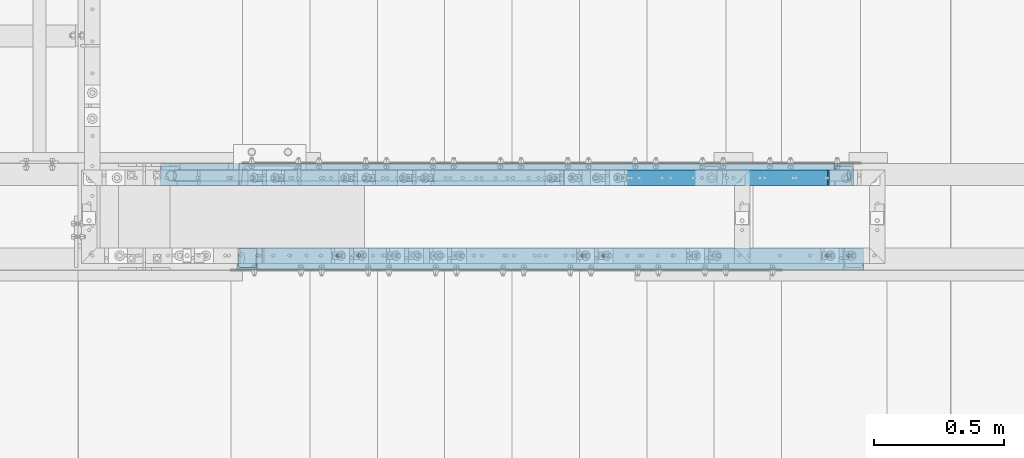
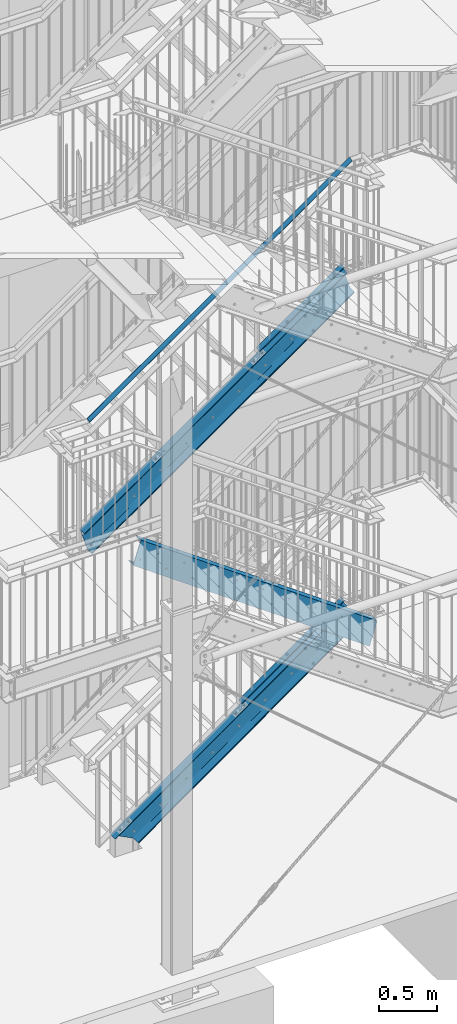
# One storey, part 125 of 831: 6 members, 65 openings.
"""IFC2X3 building model written with IfcOpenShell, lengths in millimetres."""

from ifc_helpers import new_model, entity, si_unit, converted_unit, frame, frame_2d, origin, origin_with_axes, origin_2d, origin_2d_with_axis, place, context, project, spatial, rectangle, circle, hollow_circle, u_section, extrude, clip, halfspace, material, element, save


model = new_model("IFC2X3")

# Units and contexts
model_context = context("Model", 3, precision=1e-09, world=origin_with_axes())
ifc_project = project(units=[si_unit("LENGTHUNIT", "METRE", prefix="MILLI"), si_unit("AREAUNIT", "SQUARE_METRE"), si_unit("VOLUMEUNIT", "CUBIC_METRE"), converted_unit("PLANEANGLEUNIT", "DEGREE", entity("IfcPlaneAngleMeasure", 0.01745329), si_unit("PLANEANGLEUNIT", "RADIAN"), dimensions=[0, 0, 0, 0, 0, 0, 0])], contexts=[model_context])

# Site, building, storey
site_placement = place(None, origin_with_axes())
site = spatial("IfcSite", under=ifc_project, at=site_placement, Name="Site", CompositionType="ELEMENT")
building_placement = place(site_placement, origin_with_axes())
building = spatial("IfcBuilding", under=site, at=building_placement, Name="Struktur 1", CompositionType="ELEMENT")
storey_placement = place(building_placement, origin_with_axes())
storey = spatial("IfcBuildingStorey", under=building, at=storey_placement, Name="Default Storey", CompositionType="ELEMENT", Elevation=0.0)

# Members
ifc_material = material(Name="S235JR")
member_1_placement = place(None, frame((6479.613983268, 6091.736971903, 1519.770361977), z_axis=(-0.814635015, 0.0, -0.579973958), x_axis=(0.579973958, 0.0, -0.814635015)))
element("IfcMember", 1, at=member_1_placement, inside=storey, material=ifc_material, Name="Railing_Kneerail_Stair#2", ObjectType="Railing_Kneerail_Stair#2", context=model_context, shape_type="SweptSolid", body=[
    extrude(rectangle(XDim=10.0, YDim=60.0, at=origin_2d()), origin(), (0.0, 0.0, -1.0), 1250.668990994),
])
member_2_placement = place(None, frame((4950.988825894, 6100.536971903, 4968.914684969), z_axis=(-0.818063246, 0.0, -0.575128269), x_axis=(0.575128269, 0.0, -0.818063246)))
element("IfcMember", 2, at=member_2_placement, inside=storey, material=ifc_material, Name="Gel?nder", ObjectType="Gel?nder", context=model_context, shape_type="Clipping", body=[
    clip(clip(extrude(hollow_circle(Radius=21.2, WallThickness=3.2, at=origin_2d()), origin(), (0.0, 0.0, -1.0), 3241.129789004), halfspace(frame((4016.163485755, 6100.536971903, -1939.205143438), z_axis=(-0.301609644, 0.0, 0.953431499), x_axis=(0.0, 1.0, 0.0)), True)), halfspace(frame((3102.216720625, 6100.536971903, 949.912137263), z_axis=(0.301609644, 0.0, -0.953431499), x_axis=(0.0, -1.0, 0.0)), True)),
])
member_3_placement = place(None, frame((6655.422711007, 6091.736971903, 5146.649770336), z_axis=(-0.818063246, 0.0, -0.575128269), x_axis=(0.575128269, 0.0, -0.818063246)))
element("IfcMember", 3, at=member_3_placement, inside=storey, material=ifc_material, Name="Railing_Kneerail_Stair#4", ObjectType="Railing_Kneerail_Stair#4", context=model_context, shape_type="SweptSolid", body=[
    extrude(rectangle(XDim=10.0, YDim=60.0, at=origin_2d()), origin(), (0.0, 0.0, -1.0), 1029.91856601),
])

# Member, openings
member_4_placement = place(None, frame((4776.641171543, 6124.436971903, 3599.654006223), z_axis=(-0.818063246, 0.0, -0.575128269), x_axis=(0.0, -1.0, 0.0)))
member_4 = element("IfcMember", 4, at=member_4_placement, inside=storey, material=ifc_material, Name="Stringer#2", ObjectType="Stringer#2", context=model_context, shape_type="Clipping", body=[
    clip(clip(extrude(u_section(Depth=240.0, FlangeWidth=85.0, WebThickness=9.5, FlangeThickness=13.0, FilletRadius=13.0, EdgeRadius=6.5, FlangeSlope=4.574, at=frame_2d((20.2, 0.0))), origin(), (0.0, 0.0, -1.0), 3697.004056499), halfspace(frame((6124.436971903, -2876.228700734, -2489.789648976), z_axis=(0.0, 0.301609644, 0.953431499), x_axis=(1.0, 0.0, 0.0)), True)), halfspace(frame((6124.436971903, -1962.281935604, 399.327631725), z_axis=(0.0, -0.301609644, -0.953431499), x_axis=(-1.0, 0.0, 0.0)), True)),
])
opening_1_placement = place(member_4_placement, frame((-22.8, 54.877031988, -2232.875726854), z_axis=(1.0, 0.0, 0.0), x_axis=(0.0, -0.575128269, -0.818063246)))
element("IfcOpeningElement", 5, at=opening_1_placement, cuts=member_4, ObjectType="Opening", context=model_context, shape_type="SweptSolid", body=[
    extrude(circle(Radius=7.001, at=origin_2d_with_axis()), origin(), (0.0, 0.0, 1.0), 10.5),
])
opening_2_placement = place(member_4_placement, frame((-22.8, -48.646056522, -2380.127111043), z_axis=(1.0, 0.0, 0.0), x_axis=(0.0, -0.575128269, -0.818063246)))
element("IfcOpeningElement", 6, at=opening_2_placement, cuts=member_4, ObjectType="Opening", context=model_context, shape_type="SweptSolid", body=[
    extrude(circle(Radius=7.001, at=origin_2d_with_axis()), origin(), (0.0, 0.0, 1.0), 10.5),
])
opening_3_placement = place(member_4_placement, frame((-22.8, 54.87703196, -1915.051889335), z_axis=(1.0, 0.0, 0.0), x_axis=(0.0, -0.575128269, -0.818063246)))
element("IfcOpeningElement", 7, at=opening_3_placement, cuts=member_4, ObjectType="Opening", context=model_context, shape_type="SweptSolid", body=[
    extrude(circle(Radius=7.001, at=origin_2d_with_axis()), origin(), (0.0, 0.0, 1.0), 10.5),
])
opening_4_placement = place(member_4_placement, frame((-22.8, 54.877032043, -2868.523401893), z_axis=(1.0, 0.0, 0.0), x_axis=(0.0, -0.575128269, -0.818063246)))
element("IfcOpeningElement", 8, at=opening_4_placement, cuts=member_4, ObjectType="Opening", context=model_context, shape_type="SweptSolid", body=[
    extrude(circle(Radius=7.001, at=origin_2d_with_axis()), origin(), (0.0, 0.0, 1.0), 10.5),
])
opening_5_placement = place(member_4_placement, frame((-22.8, 54.877031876, -961.580376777), z_axis=(1.0, 0.0, 0.0), x_axis=(0.0, -0.575128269, -0.818063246)))
element("IfcOpeningElement", 9, at=opening_5_placement, cuts=member_4, ObjectType="Opening", context=model_context, shape_type="SweptSolid", body=[
    extrude(circle(Radius=7.001, at=origin_2d_with_axis()), origin(), (0.0, 0.0, 1.0), 10.5),
])
opening_6_placement = place(member_4_placement, frame((-22.8, -48.64605655, -2062.303273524), z_axis=(1.0, 0.0, 0.0), x_axis=(0.0, -0.575128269, -0.818063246)))
element("IfcOpeningElement", 10, at=opening_6_placement, cuts=member_4, ObjectType="Opening", context=model_context, shape_type="SweptSolid", body=[
    extrude(circle(Radius=7.001, at=origin_2d_with_axis()), origin(), (0.0, 0.0, 1.0), 10.5),
])
opening_7_placement = place(member_4_placement, frame((-22.8, -48.646056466, -3015.774786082), z_axis=(1.0, 0.0, 0.0), x_axis=(0.0, -0.575128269, -0.818063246)))
element("IfcOpeningElement", 11, at=opening_7_placement, cuts=member_4, ObjectType="Opening", context=model_context, shape_type="SweptSolid", body=[
    extrude(circle(Radius=7.001, at=origin_2d_with_axis()), origin(), (0.0, 0.0, 1.0), 10.5),
])
opening_8_placement = place(member_4_placement, frame((-22.8, 54.877031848, -643.756539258), z_axis=(1.0, 0.0, 0.0), x_axis=(0.0, -0.575128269, -0.818063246)))
element("IfcOpeningElement", 12, at=opening_8_placement, cuts=member_4, ObjectType="Opening", context=model_context, shape_type="SweptSolid", body=[
    extrude(circle(Radius=7.001, at=origin_2d_with_axis()), origin(), (0.0, 0.0, 1.0), 10.5),
])
opening_9_placement = place(member_4_placement, frame((-22.8, -48.646056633, -1108.831760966), z_axis=(1.0, 0.0, 0.0), x_axis=(0.0, -0.575128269, -0.818063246)))
element("IfcOpeningElement", 13, at=opening_9_placement, cuts=member_4, ObjectType="Opening", context=model_context, shape_type="SweptSolid", body=[
    extrude(circle(Radius=7.001, at=origin_2d_with_axis()), origin(), (0.0, 0.0, 1.0), 10.5),
])
opening_10_placement = place(member_4_placement, frame((-22.8, 54.877031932, -1597.228051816), z_axis=(1.0, 0.0, 0.0), x_axis=(0.0, -0.575128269, -0.818063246)))
element("IfcOpeningElement", 14, at=opening_10_placement, cuts=member_4, ObjectType="Opening", context=model_context, shape_type="SweptSolid", body=[
    extrude(circle(Radius=7.001, at=origin_2d_with_axis()), origin(), (0.0, 0.0, 1.0), 10.5),
])
opening_11_placement = place(member_4_placement, frame((-22.8, -48.646056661, -791.007923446), z_axis=(1.0, 0.0, 0.0), x_axis=(0.0, -0.575128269, -0.818063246)))
element("IfcOpeningElement", 15, at=opening_11_placement, cuts=member_4, ObjectType="Opening", context=model_context, shape_type="SweptSolid", body=[
    extrude(circle(Radius=7.001, at=origin_2d_with_axis()), origin(), (0.0, 0.0, 1.0), 10.5),
])
opening_12_placement = place(member_4_placement, frame((-22.8, -48.646056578, -1744.479436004), z_axis=(1.0, 0.0, 0.0), x_axis=(0.0, -0.575128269, -0.818063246)))
element("IfcOpeningElement", 16, at=opening_12_placement, cuts=member_4, ObjectType="Opening", context=model_context, shape_type="SweptSolid", body=[
    extrude(circle(Radius=7.001, at=origin_2d_with_axis()), origin(), (0.0, 0.0, 1.0), 10.5),
])
opening_13_placement = place(member_4_placement, frame((-22.8, -48.646056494, -2697.950948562), z_axis=(1.0, 0.0, 0.0), x_axis=(0.0, -0.575128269, -0.818063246)))
element("IfcOpeningElement", 17, at=opening_13_placement, cuts=member_4, ObjectType="Opening", context=model_context, shape_type="SweptSolid", body=[
    extrude(circle(Radius=7.001, at=origin_2d_with_axis()), origin(), (0.0, 0.0, 1.0), 10.5),
])
opening_14_placement = place(member_4_placement, frame((-22.8, 54.877032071, -3186.347239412), z_axis=(1.0, 0.0, 0.0), x_axis=(0.0, -0.575128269, -0.818063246)))
element("IfcOpeningElement", 18, at=opening_14_placement, cuts=member_4, ObjectType="Opening", context=model_context, shape_type="SweptSolid", body=[
    extrude(circle(Radius=7.001, at=origin_2d_with_axis()), origin(), (0.0, 0.0, 1.0), 10.5),
])
opening_15_placement = place(member_4_placement, frame((-22.8, -48.646056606, -1426.655598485), z_axis=(1.0, 0.0, 0.0), x_axis=(0.0, -0.575128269, -0.818063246)))
element("IfcOpeningElement", 19, at=opening_15_placement, cuts=member_4, ObjectType="Opening", context=model_context, shape_type="SweptSolid", body=[
    extrude(circle(Radius=7.001, at=origin_2d_with_axis()), origin(), (0.0, 0.0, 1.0), 10.5),
])
opening_16_placement = place(member_4_placement, frame((-22.8, 54.877032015, -2550.699564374), z_axis=(1.0, 0.0, 0.0), x_axis=(0.0, -0.575128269, -0.818063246)))
element("IfcOpeningElement", 20, at=opening_16_placement, cuts=member_4, ObjectType="Opening", context=model_context, shape_type="SweptSolid", body=[
    extrude(circle(Radius=7.001, at=origin_2d_with_axis()), origin(), (0.0, 0.0, 1.0), 10.5),
])
opening_17_placement = place(member_4_placement, frame((-22.8, -48.646056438, -3333.598623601), z_axis=(1.0, 0.0, 0.0), x_axis=(0.0, -0.575128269, -0.818063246)))
element("IfcOpeningElement", 21, at=opening_17_placement, cuts=member_4, ObjectType="Opening", context=model_context, shape_type="SweptSolid", body=[
    extrude(circle(Radius=7.001, at=origin_2d_with_axis()), origin(), (0.0, 0.0, 1.0), 10.5),
])
opening_18_placement = place(member_4_placement, frame((-22.8, 54.877031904, -1279.404214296), z_axis=(1.0, 0.0, 0.0), x_axis=(0.0, -0.575128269, -0.818063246)))
element("IfcOpeningElement", 22, at=opening_18_placement, cuts=member_4, ObjectType="Opening", context=model_context, shape_type="SweptSolid", body=[
    extrude(circle(Radius=7.001, at=origin_2d_with_axis()), origin(), (0.0, 0.0, 1.0), 10.5),
])
opening_19_placement = place(member_4_placement, frame((32.7, 120.5, -1237.683048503), z_axis=(0.0, 1.0, 0.0), x_axis=(-1.0, 0.0, 0.0)))
element("IfcOpeningElement", 23, at=opening_19_placement, cuts=member_4, ObjectType="Opening", context=model_context, shape_type="SweptSolid", body=[
    extrude(circle(Radius=7.001, at=frame_2d((0.0, -7.001), x_axis=(1.0, 0.0))), origin(), (0.0, 0.0, -1.0), 14.0),
])
opening_20_placement = place(member_4_placement, frame((32.7, 120.5, -1137.683048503), z_axis=(0.0, 1.0, 0.0), x_axis=(-1.0, 0.0, 0.0)))
element("IfcOpeningElement", 24, at=opening_20_placement, cuts=member_4, ObjectType="Opening", context=model_context, shape_type="SweptSolid", body=[
    extrude(circle(Radius=7.001, at=frame_2d((0.0, -7.001), x_axis=(1.0, 0.0))), origin(), (0.0, 0.0, -1.0), 14.0),
])
opening_21_placement = place(member_4_placement, frame((32.7, 120.5, -2425.447978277), z_axis=(0.0, 1.0, 0.0), x_axis=(-1.0, 0.0, 0.0)))
element("IfcOpeningElement", 25, at=opening_21_placement, cuts=member_4, ObjectType="Opening", context=model_context, shape_type="SweptSolid", body=[
    extrude(circle(Radius=7.001, at=frame_2d((0.0, -7.001), x_axis=(1.0, 0.0))), origin(), (0.0, 0.0, -1.0), 14.0),
])
opening_22_placement = place(member_4_placement, frame((32.7, 120.5, -2325.447978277), z_axis=(0.0, 1.0, 0.0), x_axis=(-1.0, 0.0, 0.0)))
element("IfcOpeningElement", 26, at=opening_22_placement, cuts=member_4, ObjectType="Opening", context=model_context, shape_type="SweptSolid", body=[
    extrude(circle(Radius=7.001, at=frame_2d((0.0, -7.001), x_axis=(1.0, 0.0))), origin(), (0.0, 0.0, -1.0), 14.0),
])

member_5_placement = place(None, frame((5064.64560131, 6124.436971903, 285.297508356), z_axis=(-0.814635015, 0.0, -0.579973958), x_axis=(0.0, -1.0, 0.0)))
member_5 = element("IfcMember", 27, at=member_5_placement, inside=storey, material=ifc_material, Name="Stringer#2", ObjectType="Stringer#2", context=model_context, shape_type="Clipping", body=[
    clip(clip(extrude(u_section(Depth=240.0, FlangeWidth=85.0, WebThickness=9.5, FlangeThickness=13.0, FilletRadius=13.0, EdgeRadius=6.5, FlangeSlope=4.574, at=frame_2d((20.2, 0.0))), origin(), (0.0, 0.0, -1.0), 3359.765077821), halfspace(frame((6124.436971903, 321.948595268, -3164.680907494), z_axis=(0.0, 0.304437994, 0.952532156), x_axis=(1.0, 0.0, 0.0)), True)), halfspace(frame((6124.436971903, 4023.331766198, 1734.317054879), z_axis=(0.0, 0.458271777, -0.888812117), x_axis=(-1.0, 0.0, 0.0)), True)),
])
opening_23_placement = place(member_5_placement, frame((-22.8, 54.89598563, -931.59025728), z_axis=(1.0, 0.0, 0.0), x_axis=(0.0, -0.579973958, -0.814635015)))
element("IfcOpeningElement", 28, at=opening_23_placement, cuts=member_5, ObjectType="Opening", context=model_context, shape_type="SweptSolid", body=[
    extrude(circle(Radius=7.001, at=origin_2d_with_axis()), origin(), (0.0, 0.0, 1.0), 10.5),
])
opening_24_placement = place(member_5_placement, frame((-22.8, -49.49932673, -2674.031240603), z_axis=(1.0, 0.0, 0.0), x_axis=(0.0, -0.579973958, -0.814635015)))
element("IfcOpeningElement", 29, at=opening_24_placement, cuts=member_5, ObjectType="Opening", context=model_context, shape_type="SweptSolid", body=[
    extrude(circle(Radius=7.001, at=origin_2d_with_axis()), origin(), (0.0, 0.0, 1.0), 10.5),
])
opening_25_placement = place(member_5_placement, frame((-22.8, -49.49932673, -1397.385896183), z_axis=(1.0, 0.0, 0.0), x_axis=(0.0, -0.579973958, -0.814635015)))
element("IfcOpeningElement", 30, at=opening_25_placement, cuts=member_5, ObjectType="Opening", context=model_context, shape_type="SweptSolid", body=[
    extrude(circle(Radius=7.001, at=origin_2d_with_axis()), origin(), (0.0, 0.0, 1.0), 10.5),
])
opening_26_placement = place(member_5_placement, frame((-22.8, 54.89598563, -612.428921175), z_axis=(1.0, 0.0, 0.0), x_axis=(0.0, -0.579973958, -0.814635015)))
element("IfcOpeningElement", 31, at=opening_26_placement, cuts=member_5, ObjectType="Opening", context=model_context, shape_type="SweptSolid", body=[
    extrude(circle(Radius=7.001, at=origin_2d_with_axis()), origin(), (0.0, 0.0, 1.0), 10.5),
])
opening_27_placement = place(member_5_placement, frame((-22.8, 54.89598563, -2208.2356017), z_axis=(1.0, 0.0, 0.0), x_axis=(0.0, -0.579973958, -0.814635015)))
element("IfcOpeningElement", 32, at=opening_27_placement, cuts=member_5, ObjectType="Opening", context=model_context, shape_type="SweptSolid", body=[
    extrude(circle(Radius=7.001, at=origin_2d_with_axis()), origin(), (0.0, 0.0, 1.0), 10.5),
])
opening_28_placement = place(member_5_placement, frame((-22.8, -49.49932673, -1078.224560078), z_axis=(1.0, 0.0, 0.0), x_axis=(0.0, -0.579973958, -0.814635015)))
element("IfcOpeningElement", 33, at=opening_28_placement, cuts=member_5, ObjectType="Opening", context=model_context, shape_type="SweptSolid", body=[
    extrude(circle(Radius=7.001, at=origin_2d_with_axis()), origin(), (0.0, 0.0, 1.0), 10.5),
])
opening_29_placement = place(member_5_placement, frame((-22.8, -49.49932673, -1716.547232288), z_axis=(1.0, 0.0, 0.0), x_axis=(0.0, -0.579973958, -0.814635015)))
element("IfcOpeningElement", 34, at=opening_29_placement, cuts=member_5, ObjectType="Opening", context=model_context, shape_type="SweptSolid", body=[
    extrude(circle(Radius=7.001, at=origin_2d_with_axis()), origin(), (0.0, 0.0, 1.0), 10.5),
])
opening_30_placement = place(member_5_placement, frame((-22.8, -49.49932673, -2993.192576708), z_axis=(1.0, 0.0, 0.0), x_axis=(0.0, -0.579973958, -0.814635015)))
element("IfcOpeningElement", 35, at=opening_30_placement, cuts=member_5, ObjectType="Opening", context=model_context, shape_type="SweptSolid", body=[
    extrude(circle(Radius=7.001, at=origin_2d_with_axis()), origin(), (0.0, 0.0, 1.0), 10.5),
])
opening_31_placement = place(member_5_placement, frame((-22.8, -49.49932673, -439.901887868), z_axis=(1.0, 0.0, 0.0), x_axis=(0.0, -0.579973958, -0.814635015)))
element("IfcOpeningElement", 36, at=opening_31_placement, cuts=member_5, ObjectType="Opening", context=model_context, shape_type="SweptSolid", body=[
    extrude(circle(Radius=7.001, at=origin_2d_with_axis()), origin(), (0.0, 0.0, 1.0), 10.5),
])
opening_32_placement = place(member_5_placement, frame((-22.8, 54.89598563, -2527.396937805), z_axis=(1.0, 0.0, 0.0), x_axis=(0.0, -0.579973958, -0.814635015)))
element("IfcOpeningElement", 37, at=opening_32_placement, cuts=member_5, ObjectType="Opening", context=model_context, shape_type="SweptSolid", body=[
    extrude(circle(Radius=7.001, at=origin_2d_with_axis()), origin(), (0.0, 0.0, 1.0), 10.5),
])
opening_33_placement = place(member_5_placement, frame((-22.8, -49.49932673, -2354.869904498), z_axis=(1.0, 0.0, 0.0), x_axis=(0.0, -0.579973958, -0.814635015)))
element("IfcOpeningElement", 38, at=opening_33_placement, cuts=member_5, ObjectType="Opening", context=model_context, shape_type="SweptSolid", body=[
    extrude(circle(Radius=7.001, at=origin_2d_with_axis()), origin(), (0.0, 0.0, 1.0), 10.5),
])
opening_34_placement = place(member_5_placement, frame((-22.8, 54.89598563, -1889.074265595), z_axis=(1.0, 0.0, 0.0), x_axis=(0.0, -0.579973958, -0.814635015)))
element("IfcOpeningElement", 39, at=opening_34_placement, cuts=member_5, ObjectType="Opening", context=model_context, shape_type="SweptSolid", body=[
    extrude(circle(Radius=7.001, at=origin_2d_with_axis()), origin(), (0.0, 0.0, 1.0), 10.5),
])
opening_35_placement = place(member_5_placement, frame((-22.8, -49.49932673, -2035.708568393), z_axis=(1.0, 0.0, 0.0), x_axis=(0.0, -0.579973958, -0.814635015)))
element("IfcOpeningElement", 40, at=opening_35_placement, cuts=member_5, ObjectType="Opening", context=model_context, shape_type="SweptSolid", body=[
    extrude(circle(Radius=7.001, at=origin_2d_with_axis()), origin(), (0.0, 0.0, 1.0), 10.5),
])
opening_36_placement = place(member_5_placement, frame((-22.8, 54.89598563, -2846.55827391), z_axis=(1.0, 0.0, 0.0), x_axis=(0.0, -0.579973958, -0.814635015)))
element("IfcOpeningElement", 41, at=opening_36_placement, cuts=member_5, ObjectType="Opening", context=model_context, shape_type="SweptSolid", body=[
    extrude(circle(Radius=7.001, at=origin_2d_with_axis()), origin(), (0.0, 0.0, 1.0), 10.5),
])
opening_37_placement = place(member_5_placement, frame((-22.8, -49.49932673, -759.063223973), z_axis=(1.0, 0.0, 0.0), x_axis=(0.0, -0.579973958, -0.814635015)))
element("IfcOpeningElement", 42, at=opening_37_placement, cuts=member_5, ObjectType="Opening", context=model_context, shape_type="SweptSolid", body=[
    extrude(circle(Radius=7.001, at=origin_2d_with_axis()), origin(), (0.0, 0.0, 1.0), 10.5),
])
opening_38_placement = place(member_5_placement, frame((-22.8, 54.89598563, -1250.751593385), z_axis=(1.0, 0.0, 0.0), x_axis=(0.0, -0.579973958, -0.814635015)))
element("IfcOpeningElement", 43, at=opening_38_placement, cuts=member_5, ObjectType="Opening", context=model_context, shape_type="SweptSolid", body=[
    extrude(circle(Radius=7.001, at=origin_2d_with_axis()), origin(), (0.0, 0.0, 1.0), 10.5),
])
opening_39_placement = place(member_5_placement, frame((-22.8, 54.89598563, -1569.91292949), z_axis=(1.0, 0.0, 0.0), x_axis=(0.0, -0.579973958, -0.814635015)))
element("IfcOpeningElement", 44, at=opening_39_placement, cuts=member_5, ObjectType="Opening", context=model_context, shape_type="SweptSolid", body=[
    extrude(circle(Radius=7.001, at=origin_2d_with_axis()), origin(), (0.0, 0.0, 1.0), 10.5),
])
opening_40_placement = place(member_5_placement, frame((32.7, 120.5, -458.116797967), z_axis=(0.0, 1.0, 0.0), x_axis=(-1.0, 0.0, 0.0)))
element("IfcOpeningElement", 45, at=opening_40_placement, cuts=member_5, ObjectType="Opening", context=model_context, shape_type="SweptSolid", body=[
    extrude(circle(Radius=7.001, at=frame_2d((0.0, -7.001), x_axis=(1.0, 0.0))), origin(), (0.0, 0.0, -1.0), 14.0),
])
opening_41_placement = place(member_5_placement, frame((32.7, 120.5, -358.116797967), z_axis=(0.0, 1.0, 0.0), x_axis=(-1.0, 0.0, 0.0)))
element("IfcOpeningElement", 46, at=opening_41_placement, cuts=member_5, ObjectType="Opening", context=model_context, shape_type="SweptSolid", body=[
    extrude(circle(Radius=7.001, at=frame_2d((0.0, -7.001), x_axis=(1.0, 0.0))), origin(), (0.0, 0.0, -1.0), 14.0),
])
opening_42_placement = place(member_5_placement, frame((32.7, 120.5, -1866.722821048), z_axis=(0.0, 1.0, 0.0), x_axis=(-1.0, 0.0, 0.0)))
element("IfcOpeningElement", 47, at=opening_42_placement, cuts=member_5, ObjectType="Opening", context=model_context, shape_type="SweptSolid", body=[
    extrude(circle(Radius=7.001, at=frame_2d((0.0, -7.001), x_axis=(1.0, 0.0))), origin(), (0.0, 0.0, -1.0), 14.0),
])
opening_43_placement = place(member_5_placement, frame((32.7, 120.5, -1766.722821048), z_axis=(0.0, 1.0, 0.0), x_axis=(-1.0, 0.0, 0.0)))
element("IfcOpeningElement", 48, at=opening_43_placement, cuts=member_5, ObjectType="Opening", context=model_context, shape_type="SweptSolid", body=[
    extrude(circle(Radius=7.001, at=frame_2d((0.0, -7.001), x_axis=(1.0, 0.0))), origin(), (0.0, 0.0, -1.0), 14.0),
])

member_6_placement = place(None, frame((7774.802623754, 5759.036971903, 1932.719101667), z_axis=(0.814635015, 0.0, -0.579973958), x_axis=(0.0, 1.0, 0.0)))
member_6 = element("IfcMember", 49, at=member_6_placement, inside=storey, material=ifc_material, Name="Stringer#2", ObjectType="Stringer#2", context=model_context, shape_type="Clipping", body=[
    clip(clip(extrude(u_section(Depth=240.0, FlangeWidth=85.0, WebThickness=9.5, FlangeThickness=13.0, FilletRadius=13.0, EdgeRadius=6.5, FlangeSlope=4.574, at=frame_2d((20.2, 0.0))), origin(), (0.0, 0.0, -1.0), 3391.707504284), halfspace(frame((-5759.036971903, -4072.348471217, 1080.284148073), z_axis=(0.0, -0.304437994, -0.952532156), x_axis=(-1.0, 0.0, 0.0)), True)), halfspace(frame((-5759.036971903, -4905.321546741, -1525.939959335), z_axis=(0.0, 0.304437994, 0.952532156), x_axis=(1.0, 0.0, 0.0)), True)),
])
opening_44_placement = place(member_6_placement, frame((-22.8, 54.89598563, -2240.178028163), z_axis=(1.0, 0.0, 0.0), x_axis=(0.0, -0.579973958, -0.814635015)))
element("IfcOpeningElement", 50, at=opening_44_placement, cuts=member_6, ObjectType="Opening", context=model_context, shape_type="SweptSolid", body=[
    extrude(circle(Radius=7.001, at=origin_2d_with_axis()), origin(), (0.0, 0.0, 1.0), 10.5),
])
opening_45_placement = place(member_6_placement, frame((-22.8, 54.89598563, -2559.339364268), z_axis=(1.0, 0.0, 0.0), x_axis=(0.0, -0.579973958, -0.814635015)))
element("IfcOpeningElement", 51, at=opening_45_placement, cuts=member_6, ObjectType="Opening", context=model_context, shape_type="SweptSolid", body=[
    extrude(circle(Radius=7.001, at=origin_2d_with_axis()), origin(), (0.0, 0.0, 1.0), 10.5),
])
opening_46_placement = place(member_6_placement, frame((-22.8, 54.89598563, -1601.855355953), z_axis=(1.0, 0.0, 0.0), x_axis=(0.0, -0.579973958, -0.814635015)))
element("IfcOpeningElement", 52, at=opening_46_placement, cuts=member_6, ObjectType="Opening", context=model_context, shape_type="SweptSolid", body=[
    extrude(circle(Radius=7.001, at=origin_2d_with_axis()), origin(), (0.0, 0.0, 1.0), 10.5),
])
opening_47_placement = place(member_6_placement, frame((-22.8, -49.49932673, -2386.812330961), z_axis=(1.0, 0.0, 0.0), x_axis=(0.0, -0.579973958, -0.814635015)))
element("IfcOpeningElement", 53, at=opening_47_placement, cuts=member_6, ObjectType="Opening", context=model_context, shape_type="SweptSolid", body=[
    extrude(circle(Radius=7.001, at=origin_2d_with_axis()), origin(), (0.0, 0.0, 1.0), 10.5),
])
opening_48_placement = place(member_6_placement, frame((-22.8, 54.89598563, -644.371347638), z_axis=(1.0, 0.0, 0.0), x_axis=(0.0, -0.579973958, -0.814635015)))
element("IfcOpeningElement", 54, at=opening_48_placement, cuts=member_6, ObjectType="Opening", context=model_context, shape_type="SweptSolid", body=[
    extrude(circle(Radius=7.001, at=origin_2d_with_axis()), origin(), (0.0, 0.0, 1.0), 10.5),
])
opening_49_placement = place(member_6_placement, frame((-22.8, -49.49932673, -2067.650994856), z_axis=(1.0, 0.0, 0.0), x_axis=(0.0, -0.579973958, -0.814635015)))
element("IfcOpeningElement", 55, at=opening_49_placement, cuts=member_6, ObjectType="Opening", context=model_context, shape_type="SweptSolid", body=[
    extrude(circle(Radius=7.001, at=origin_2d_with_axis()), origin(), (0.0, 0.0, 1.0), 10.5),
])
opening_50_placement = place(member_6_placement, frame((-22.8, 54.89598563, -2878.500700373), z_axis=(1.0, 0.0, 0.0), x_axis=(0.0, -0.579973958, -0.814635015)))
element("IfcOpeningElement", 56, at=opening_50_placement, cuts=member_6, ObjectType="Opening", context=model_context, shape_type="SweptSolid", body=[
    extrude(circle(Radius=7.001, at=origin_2d_with_axis()), origin(), (0.0, 0.0, 1.0), 10.5),
])
opening_51_placement = place(member_6_placement, frame((-22.8, 54.89598563, -1282.694019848), z_axis=(1.0, 0.0, 0.0), x_axis=(0.0, -0.579973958, -0.814635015)))
element("IfcOpeningElement", 57, at=opening_51_placement, cuts=member_6, ObjectType="Opening", context=model_context, shape_type="SweptSolid", body=[
    extrude(circle(Radius=7.001, at=origin_2d_with_axis()), origin(), (0.0, 0.0, 1.0), 10.5),
])
opening_52_placement = place(member_6_placement, frame((-22.8, -49.49932673, -1748.489658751), z_axis=(1.0, 0.0, 0.0), x_axis=(0.0, -0.579973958, -0.814635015)))
element("IfcOpeningElement", 58, at=opening_52_placement, cuts=member_6, ObjectType="Opening", context=model_context, shape_type="SweptSolid", body=[
    extrude(circle(Radius=7.001, at=origin_2d_with_axis()), origin(), (0.0, 0.0, 1.0), 10.5),
])
opening_53_placement = place(member_6_placement, frame((-22.8, -49.49932673, -791.005650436), z_axis=(1.0, 0.0, 0.0), x_axis=(0.0, -0.579973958, -0.814635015)))
element("IfcOpeningElement", 59, at=opening_53_placement, cuts=member_6, ObjectType="Opening", context=model_context, shape_type="SweptSolid", body=[
    extrude(circle(Radius=7.001, at=origin_2d_with_axis()), origin(), (0.0, 0.0, 1.0), 10.5),
])
opening_54_placement = place(member_6_placement, frame((-22.8, -49.49932673, -1429.328322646), z_axis=(1.0, 0.0, 0.0), x_axis=(0.0, -0.579973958, -0.814635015)))
element("IfcOpeningElement", 60, at=opening_54_placement, cuts=member_6, ObjectType="Opening", context=model_context, shape_type="SweptSolid", body=[
    extrude(circle(Radius=7.001, at=origin_2d_with_axis()), origin(), (0.0, 0.0, 1.0), 10.5),
])
opening_55_placement = place(member_6_placement, frame((-22.8, -49.49932673, -3025.135003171), z_axis=(1.0, 0.0, 0.0), x_axis=(0.0, -0.579973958, -0.814635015)))
element("IfcOpeningElement", 61, at=opening_55_placement, cuts=member_6, ObjectType="Opening", context=model_context, shape_type="SweptSolid", body=[
    extrude(circle(Radius=7.001, at=origin_2d_with_axis()), origin(), (0.0, 0.0, 1.0), 10.5),
])
opening_56_placement = place(member_6_placement, frame((-22.8, -49.49932673, -2705.973667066), z_axis=(1.0, 0.0, 0.0), x_axis=(0.0, -0.579973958, -0.814635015)))
element("IfcOpeningElement", 62, at=opening_56_placement, cuts=member_6, ObjectType="Opening", context=model_context, shape_type="SweptSolid", body=[
    extrude(circle(Radius=7.001, at=origin_2d_with_axis()), origin(), (0.0, 0.0, 1.0), 10.5),
])
opening_57_placement = place(member_6_placement, frame((-22.8, 54.89598563, -963.532683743), z_axis=(1.0, 0.0, 0.0), x_axis=(0.0, -0.579973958, -0.814635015)))
element("IfcOpeningElement", 63, at=opening_57_placement, cuts=member_6, ObjectType="Opening", context=model_context, shape_type="SweptSolid", body=[
    extrude(circle(Radius=7.001, at=origin_2d_with_axis()), origin(), (0.0, 0.0, 1.0), 10.5),
])
opening_58_placement = place(member_6_placement, frame((-22.8, 54.89598563, -1921.016692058), z_axis=(1.0, 0.0, 0.0), x_axis=(0.0, -0.579973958, -0.814635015)))
element("IfcOpeningElement", 64, at=opening_58_placement, cuts=member_6, ObjectType="Opening", context=model_context, shape_type="SweptSolid", body=[
    extrude(circle(Radius=7.001, at=origin_2d_with_axis()), origin(), (0.0, 0.0, 1.0), 10.5),
])
opening_59_placement = place(member_6_placement, frame((-22.8, -49.49932673, -1110.166986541), z_axis=(1.0, 0.0, 0.0), x_axis=(0.0, -0.579973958, -0.814635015)))
element("IfcOpeningElement", 65, at=opening_59_placement, cuts=member_6, ObjectType="Opening", context=model_context, shape_type="SweptSolid", body=[
    extrude(circle(Radius=7.001, at=origin_2d_with_axis()), origin(), (0.0, 0.0, 1.0), 10.5),
])
opening_60_placement = place(member_6_placement, frame((32.7, 120.5, -422.541968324), z_axis=(0.0, 1.0, 0.0), x_axis=(-1.0, 0.0, 0.0)))
element("IfcOpeningElement", 66, at=opening_60_placement, cuts=member_6, ObjectType="Opening", context=model_context, shape_type="SweptSolid", body=[
    extrude(circle(Radius=7.001, at=frame_2d((0.0, -7.001), x_axis=(1.0, 0.0))), origin(), (0.0, 0.0, -1.0), 14.0),
])
opening_61_placement = place(member_6_placement, frame((32.7, 120.5, -322.541968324), z_axis=(0.0, 1.0, 0.0), x_axis=(-1.0, 0.0, 0.0)))
element("IfcOpeningElement", 67, at=opening_61_placement, cuts=member_6, ObjectType="Opening", context=model_context, shape_type="SweptSolid", body=[
    extrude(circle(Radius=7.001, at=frame_2d((0.0, -7.001), x_axis=(1.0, 0.0))), origin(), (0.0, 0.0, -1.0), 14.0),
])
opening_62_placement = place(member_6_placement, frame((32.7, 120.5, -1582.571079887), z_axis=(0.0, 1.0, 0.0), x_axis=(-1.0, 0.0, 0.0)))
element("IfcOpeningElement", 68, at=opening_62_placement, cuts=member_6, ObjectType="Opening", context=model_context, shape_type="SweptSolid", body=[
    extrude(circle(Radius=7.001, at=frame_2d((0.0, -7.001), x_axis=(1.0, 0.0))), origin(), (0.0, 0.0, -1.0), 14.0),
])
opening_63_placement = place(member_6_placement, frame((32.7, 120.5, -1482.571079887), z_axis=(0.0, 1.0, 0.0), x_axis=(-1.0, 0.0, 0.0)))
element("IfcOpeningElement", 69, at=opening_63_placement, cuts=member_6, ObjectType="Opening", context=model_context, shape_type="SweptSolid", body=[
    extrude(circle(Radius=7.001, at=frame_2d((0.0, -7.001), x_axis=(1.0, 0.0))), origin(), (0.0, 0.0, -1.0), 14.0),
])
opening_64_placement = place(member_6_placement, frame((32.7, 120.5, -2742.60019145), z_axis=(0.0, 1.0, 0.0), x_axis=(-1.0, 0.0, 0.0)))
element("IfcOpeningElement", 70, at=opening_64_placement, cuts=member_6, ObjectType="Opening", context=model_context, shape_type="SweptSolid", body=[
    extrude(circle(Radius=7.001, at=frame_2d((0.0, -7.001), x_axis=(1.0, 0.0))), origin(), (0.0, 0.0, -1.0), 14.0),
])
opening_65_placement = place(member_6_placement, frame((32.7, 120.5, -2642.60019145), z_axis=(0.0, 1.0, 0.0), x_axis=(-1.0, 0.0, 0.0)))
element("IfcOpeningElement", 71, at=opening_65_placement, cuts=member_6, ObjectType="Opening", context=model_context, shape_type="SweptSolid", body=[
    extrude(circle(Radius=7.001, at=frame_2d((0.0, -7.001), x_axis=(1.0, 0.0))), origin(), (0.0, 0.0, -1.0), 14.0),
])

save(model, "model.ifc")
